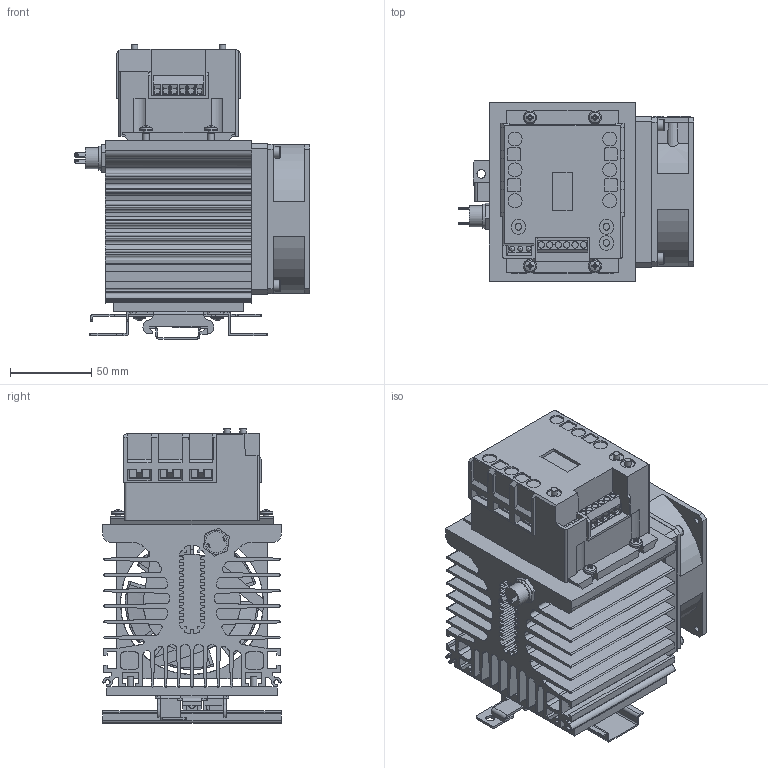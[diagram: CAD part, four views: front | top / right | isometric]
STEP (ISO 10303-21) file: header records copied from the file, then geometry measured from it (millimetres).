
FILE_DESCRIPTION((''),'2;1');
FILE_NAME('C:\Vault_local\Designs\Stock\3D pour clients\préparations\2D3D 546 A.stp','2009-08-13T15:19:31',('Georges THOLLOT ','Responsible for','Methods and Industrialization',' Tl : +33 (0)4 77 53 90 27','gthollot@celduc.com'),('Celduc r e l a i s','5, rue Ampre, BP 30004','42290 SORBIERS - France','Fax. : +33 (0)4 77 53 85 51','N siret 353 310 519 00015','ISO 9001 N QUAL/1993/1106b','www.celduc.com'),'Autodesk Inventor 2009','Autodesk Inventor 2009','');
FILE_SCHEMA(('AUTOMOTIVE_DESIGN { 1 0 10303 214 1 1 1 1 }'));
Length unit declared in the file: millimetre
Products named in the file (1): SMCW6150
Bounding box: 145.3 x 110 x 181.3 mm (x, y, z)
Volume: 963968.6 mm3; surface area: 319683.3 mm2
Topology: 16 solids, 16 shells, 1853 faces, 5248 edges, 3430 vertices
Faces by surface type: plane 1088, cylinder 477, bspline 134, cone 107, torus 38, sphere 9
Full cylindrical faces by diameter (mm): 1 x2, 3.621 x6, 4 x33, 4.3 x6, 7 x3, 8 x3, 8.6 x3, 9 x3, 13 x1, 14.8 x1, 60 x2, 88 x1
Entity records: 64224 total; most frequent: CARTESIAN_POINT 15275, ORIENTED_EDGE 10018, DIRECTION 9588, EDGE_CURVE 5009, VERTEX_POINT 3338, AXIS2_PLACEMENT_3D 3196, VECTOR 3196, LINE 3196
